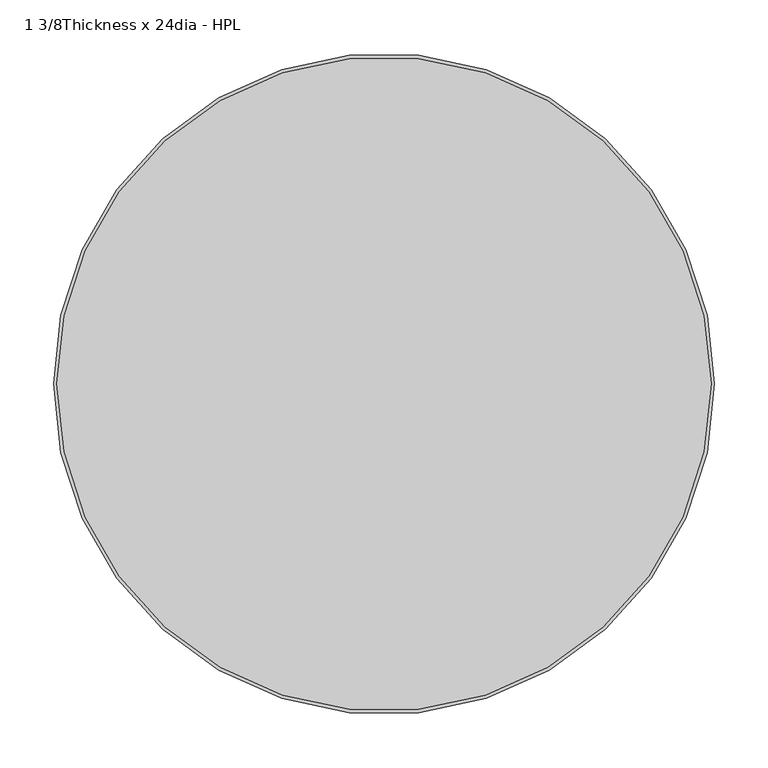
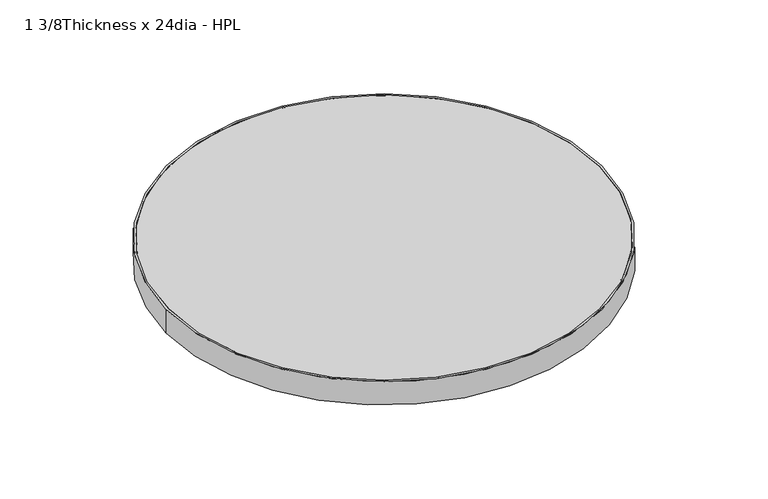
"""IFC4 building model written with IfcOpenShell, lengths in millimetres: furniture geometry, Steelcase - Groupwork - Table - Top - Round : 1 3/8Thickness x 24dia - HPL."""

from ifc_helpers import new_model, si_unit, point, frame, origin, origin_2d, place, context, project, spatial, circle_curve, trimmed, segment, composite_curve, outline, extrude, source, transform, mapped, element, save


def furniture_1_3_8thickness_x_24dia_hpl_9d86332b(model_context):
    return source(origin(), model_context, "Body", "SweptSolid", [
        extrude(outline(composite_curve([segment(trimmed(circle_curve(origin_2d(), 307.848), [point((-307.848, 0.0))], [point((307.848, 0.0))], False, "CARTESIAN"), True, "CONTINUOUS"), segment(trimmed(circle_curve(origin_2d(), 307.848), [point((307.848, 0.0))], [point((-307.848, 0.0))], False, "CARTESIAN"), True, "CONTINUOUS")], self_intersect=False), holes=[composite_curve([segment(trimmed(circle_curve(origin_2d(), 304.8), [point((304.8, 0.0))], [point((-304.8, 0.0))], True, "CARTESIAN"), True, "CONTINUOUS"), segment(trimmed(circle_curve(origin_2d(), 304.8), [point((-304.8, 0.0))], [point((304.8, 0.0))], True, "CARTESIAN"), True, "CONTINUOUS")], self_intersect=False)]), frame((0.0, 0.0, 695.579), z_axis=(0.0, 0.0, 1.0), x_axis=(1.0, 0.0, 0.0)), (0.0, 0.0, 1.0), 35.052),
        extrude(outline(composite_curve([segment(trimmed(circle_curve(origin_2d(), 304.8), [point((-304.8, 0.0))], [point((304.8, 0.0))], False, "CARTESIAN"), True, "CONTINUOUS"), segment(trimmed(circle_curve(origin_2d(), 304.8), [point((304.8, 0.0))], [point((-304.8, 0.0))], False, "CARTESIAN"), True, "CONTINUOUS")], self_intersect=False)), frame((0.0, 0.0, 695.579), z_axis=(0.0, 0.0, 1.0), x_axis=(1.0, 0.0, 0.0)), (0.0, 0.0, 1.0), 35.052),
    ])


if __name__ == "__main__":
    model = new_model("IFC4")
    model_context = context("Model", 3, world=origin())
    ifc_project = project(units=[si_unit("LENGTHUNIT", "METRE", prefix="MILLI")], contexts=[model_context])
    site = spatial("IfcSite", under=ifc_project)
    building = spatial("IfcBuilding", under=site)
    placement = place(None, origin())
    furniture_1_3_8thickness_x_24dia_hpl_shape = furniture_1_3_8thickness_x_24dia_hpl_9d86332b(model_context)
    element("IfcFurniture", 1, ObjectType="Steelcase - Groupwork - Table - Top - Round : 1 3/8Thickness x 24dia - HPL", at=placement, inside=building, context=model_context, shape_type="MappedRepresentation", body=[
        mapped(furniture_1_3_8thickness_x_24dia_hpl_shape, transform((0.0, 0.0, 0.0), x_axis=(1.0, 0.0, 0.0), y_axis=(0.0, 1.0, 0.0), z_axis=(0.0, 0.0, 1.0))),
    ])
    save(model, "model.ifc")
